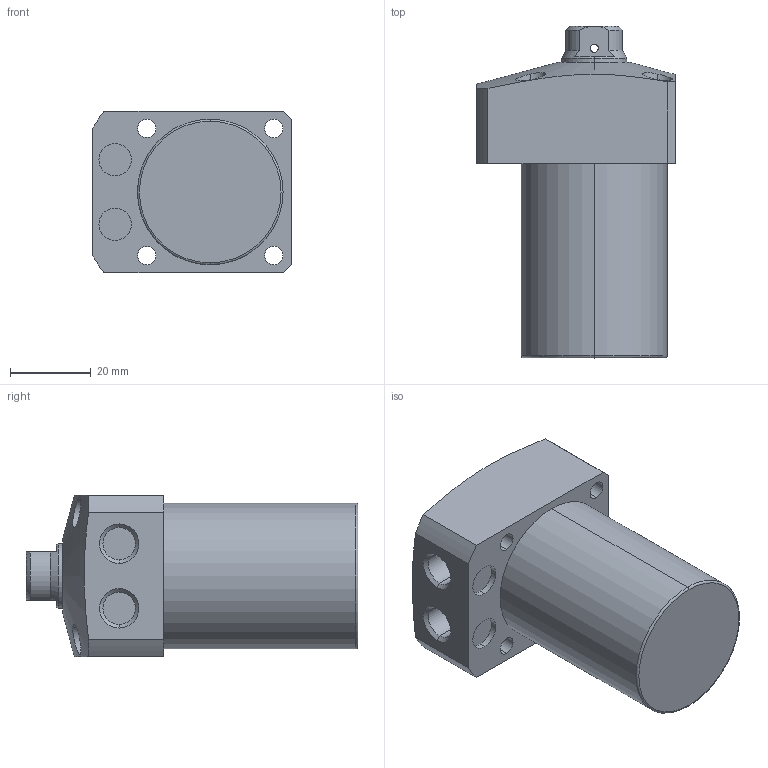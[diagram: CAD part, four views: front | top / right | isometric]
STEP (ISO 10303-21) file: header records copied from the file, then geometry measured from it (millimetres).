
FILE_DESCRIPTION (( 'STEP AP203' ), '1' );
FILE_NAME ('CLL-036CB-040.STEP', '2020-01-03T12:33:09', ( '' ), ( '' ), 'SwSTEP 2.0', 'SolidWorks 2015', '' );
FILE_SCHEMA (( 'CONFIG_CONTROL_DESIGN' ));
Length unit declared in the file: millimetre
Products named in the file (1): CLL-036CB-040
Bounding box: 49 x 82 x 40 mm (x, y, z)
Volume: 90278.2 mm3; surface area: 15636.7 mm2
Topology: 1 solids, 1 shells, 76 faces, 184 edges, 117 vertices
Faces by surface type: cylinder 38, plane 22, cone 14, torus 2
Entity records: 2699 total; most frequent: CARTESIAN_POINT 814, DIRECTION 386, ORIENTED_EDGE 364, EDGE_CURVE 182, AXIS2_PLACEMENT_3D 159, VERTEX_POINT 117, EDGE_LOOP 97, CIRCLE 82
